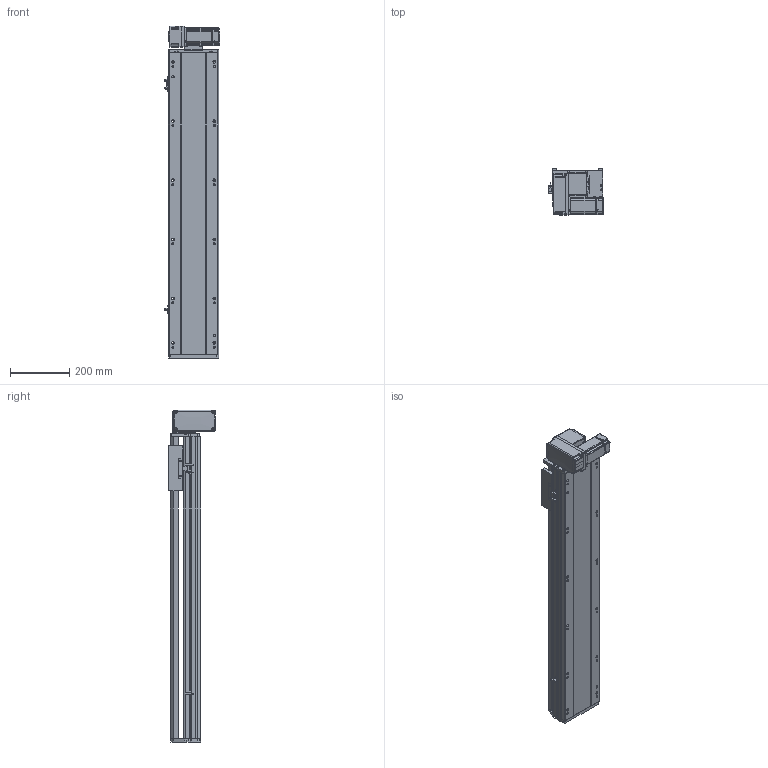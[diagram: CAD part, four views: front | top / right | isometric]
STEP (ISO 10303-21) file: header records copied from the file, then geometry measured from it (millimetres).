
FILE_DESCRIPTION (( 'STEP AP214' ), '1' );
FILE_NAME ('RTB17S-XX-750-LM-M40-C4.STEP', '2025-12-11T06:24:45', ( '' ), ( '' ), 'SwSTEP 2.0', 'SolidWorks 2018', '' );
FILE_SCHEMA (( 'AUTOMOTIVE_DESIGN' ));
Length unit declared in the file: millimetre
Products named in the file (14): OMRON EE-SX672 传感器^RTB17S-XX-XX-LM-M40-C4; RTB14-L-017P^RTB17S-LM-々湍釱蚾饜-400W_RTB17S-XX-XX-LM-M40-C4; RTB17S-L-007奻裔^RTB17S-XX-XX-LM-M40-C4; RTB17-R-011菁釱^RTB17S-XX-XX-LM-M40-C4; RTB14-L-018P^RTB17S-LM-々湍釱蚾饜-400W_RTB17S-XX-XX-LM-M40-C4; RTB17S-XX-750-LM-M40-C4; RTB17S-L-001耜醱啣^RTB17S-XX-XX-LM-M40-C4; RMP17S-L-014-T20--々湍釱^RTB17S-LM-々湍釱蚾饜-400W_RTB17S-XX-XX-LM-M40-C4; RTB17S-LM-々湍釱蚾饜-400W^RTB17S-XX-XX-LM-M40-C4; RTB14-L-005P--轴承塑胶压盖^RTB17S-LM-皮带座装配-400W_RTB17S-XX-XX-LM-M40-C4; RTB17S-L-004佪裝蹟譫蟀諉釱^RTB17S-XX-XX-LM-M40-C4; RTB14-L-008-M20--萇儂啣^RTB17S-LM-々湍釱蚾饜-400W_RTB17S-XX-XX-LM-M40-C4; RTH13-BL-012覜茼え俋离^RTB17S-XX-XX-LM-M40-C4; 400W侜督萇儂^RTB17S-XX-XX-LM-M40-C4
Assembly tree (16 placements, depth 3):
  RTB17S-XX-750-LM-M40-C4
    RTB17-R-011菁釱^RTB17S-XX-XX-LM-M40-C4
    RTB17S-L-007奻裔^RTB17S-XX-XX-LM-M40-C4
    OMRON EE-SX672 传感器^RTB17S-XX-XX-LM-M40-C4  x3
    RTH13-BL-012覜茼え俋离^RTB17S-XX-XX-LM-M40-C4
    RTB17S-L-001耜醱啣^RTB17S-XX-XX-LM-M40-C4
    400W侜督萇儂^RTB17S-XX-XX-LM-M40-C4
    RTB17S-L-004佪裝蹟譫蟀諉釱^RTB17S-XX-XX-LM-M40-C4
    RTB17S-LM-々湍釱蚾饜-400W^RTB17S-XX-XX-LM-M40-C4
      RMP17S-L-014-T20--々湍釱^RTB17S-LM-々湍釱蚾饜-400W_RTB17S-XX-XX-LM-M40-C4
      RTB14-L-005P--轴承塑胶压盖^RTB17S-LM-皮带座装配-400W_RTB17S-XX-XX-LM-M40-C4
      RTB14-L-008-M20--萇儂啣^RTB17S-LM-々湍釱蚾饜-400W_RTB17S-XX-XX-LM-M40-C4
      RTB14-L-017P^RTB17S-LM-々湍釱蚾饜-400W_RTB17S-XX-XX-LM-M40-C4  x2
      RTB14-L-018P^RTB17S-LM-々湍釱蚾饜-400W_RTB17S-XX-XX-LM-M40-C4
Bounding box: 186 x 156.5 x 1122.5 mm (x, y, z)
Volume: 10335640.5 mm3; surface area: 1275742 mm2
Topology: 15 solids, 15 shells, 2189 faces, 6033 edges, 3933 vertices
Faces by surface type: plane 1066, cylinder 675, bspline 301, cone 139, torus 8
Entity records: 61865 total; most frequent: CARTESIAN_POINT 17238, ORIENTED_EDGE 8910, DIRECTION 8306, EDGE_CURVE 4455, VERTEX_POINT 2921, AXIS2_PLACEMENT_3D 2851, VECTOR 2604, LINE 2604
